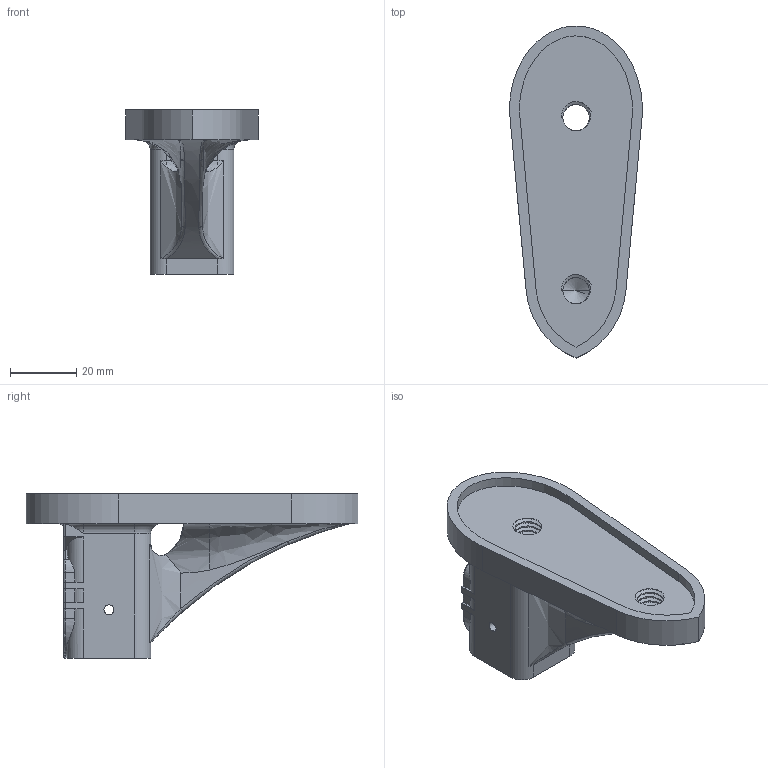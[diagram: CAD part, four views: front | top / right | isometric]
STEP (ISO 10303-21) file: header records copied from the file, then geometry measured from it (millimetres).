
FILE_DESCRIPTION (( 'STEP AP203' ), '1' );
FILE_NAME ('43X 93R style buttplate.STEP', '2020-12-17T02:34:15', ( '' ), ( '' ), 'SwSTEP 2.0', 'SolidWorks 2016', '' );
FILE_SCHEMA (( 'CONFIG_CONTROL_DESIGN' ));
Products named in the file (1): 43X 93R style buttplate
Bounding box: 39.98 x 99.97 x 49.5 mm (x, y, z)
Volume: 37886.4 mm3; surface area: 18557.5 mm2
Topology: 1 solids, 1 shells, 1521 faces, 4433 edges, 2941 vertices
Faces by surface type: plane 1052, cylinder 425, bspline 32, torus 10, cone 2
Entity records: 55442 total; most frequent: CARTESIAN_POINT 14837, ORIENTED_EDGE 8862, DIRECTION 8034, EDGE_CURVE 4431, LINE 3486, VECTOR 3486, VERTEX_POINT 2941, AXIS2_PLACEMENT_3D 2274
